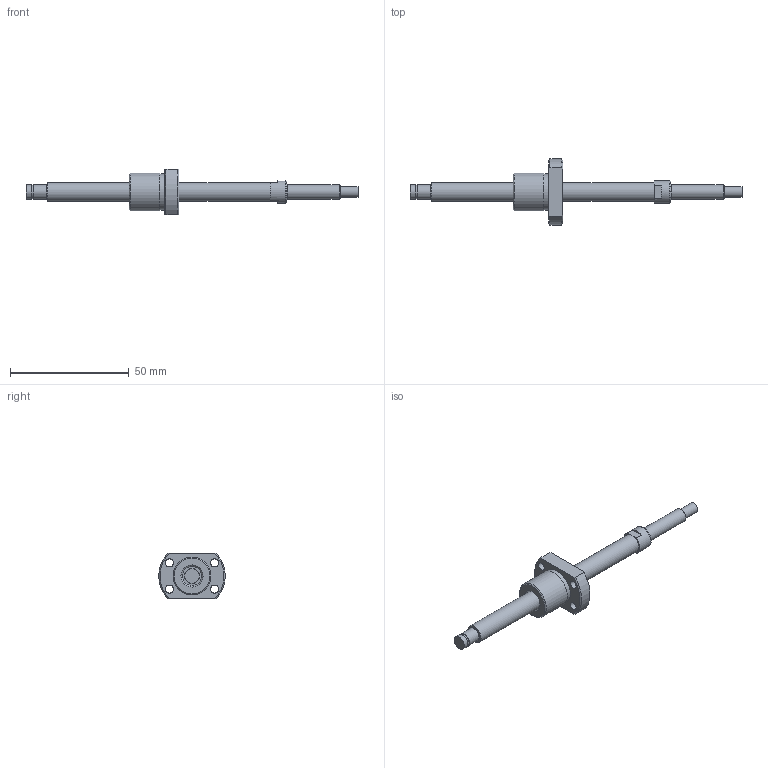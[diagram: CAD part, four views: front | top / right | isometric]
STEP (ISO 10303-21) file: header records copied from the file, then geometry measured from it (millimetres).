
FILE_DESCRIPTION(/* description */ ('STEP AP214'),/* implementation_level */ '2;1');
FILE_NAME(/* name */ 'NSGF0802Z-090R140C3-0-T-S-T-B-(34.5-S)',/* time_stamp */ '2026-08-24T20:11:16+02:00',/* author */ ('License CC BY-ND 4.0'),/* organization */ ('CADENAS'),/* preprocessor_version */ 'ST-DEVELOPER v20',/* originating_system */ 'PARTsolutions',/* authorisation */ ' ');
FILE_SCHEMA (('AUTOMOTIVE_DESIGN {1 0 10303 214 3 1 1}'));
Length unit declared in the file: millimetre
Products named in the file (3): NSGF0802Z-090R140C3-0-T-S-T-B-(34.5-S); NSG0802Z-90R14023_(T-S_T-B_2)-2; NSGF0802Z-1
Assembly tree (2 placements, depth 2):
  NSGF0802Z-090R140C3-0-T-S-T-B-(34.5-S)
    NSG0802Z-90R14023_(T-S_T-B_2)-2
    NSGF0802Z-1
Bounding box: 140 x 27.9 x 19 mm (x, y, z)
Volume: 10335.8 mm3; surface area: 6304.1 mm2
Topology: 2 solids, 2 shells, 47 faces, 99 edges, 64 vertices
Faces by surface type: plane 20, cylinder 17, cone 8, torus 2
Full cylindrical faces by diameter (mm): 3.4 x4, 4.5 x1, 5.7 x1, 6 x3, 8 x2, 9.5 x1, 13 x1, 15.5 x1, 16 x1
Entity records: 1235 total; most frequent: DIRECTION 214, CARTESIAN_POINT 208, ORIENTED_EDGE 148, AXIS2_PLACEMENT_3D 98, EDGE_LOOP 86, FACE_BOUND 86, EDGE_CURVE 74, VERTEX_POINT 60
